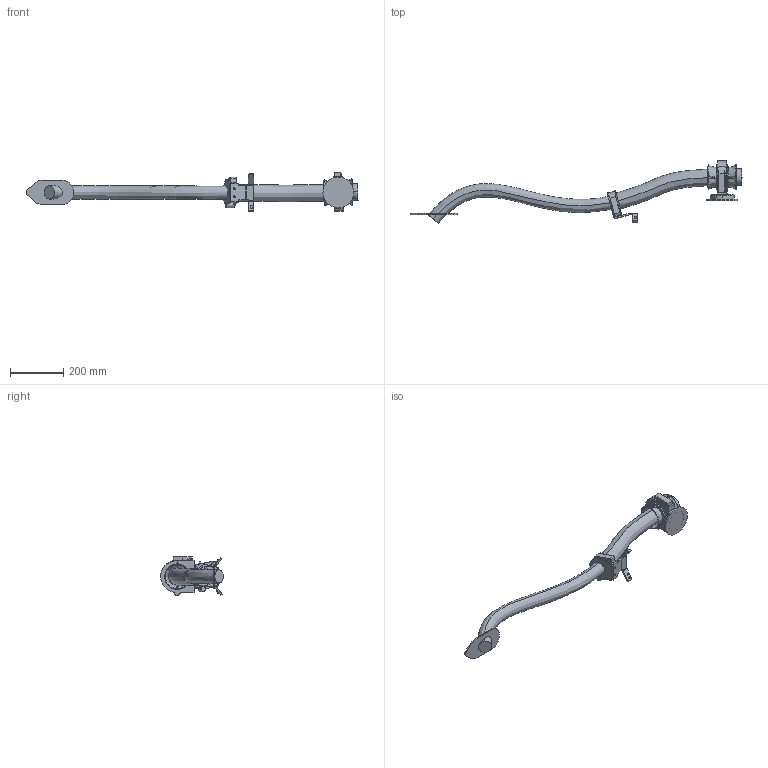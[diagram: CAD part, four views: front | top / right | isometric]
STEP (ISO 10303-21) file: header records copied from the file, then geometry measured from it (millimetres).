
FILE_DESCRIPTION (( 'STEP AP214' ), '1' );
FILE_NAME ('IRB5710-LID_70kg-270_OC_rev01_LINK04_CABLE.step', '2025-07-07T14:19:52', ( '' ), ( '' ), 'SwSTEP 2.0', 'SolidWorks 2024', '' );
FILE_SCHEMA (( 'AUTOMOTIVE_DESIGN' ));
Length unit declared in the file: millimetre
Products named in the file (1): IRB5710-LID_70kg-270_OC_rev01_LINK04_CABLE
Bounding box: 1243.15 x 234.79 x 144.31 mm (x, y, z)
Volume: 3757317.8 mm3; surface area: 406163.3 mm2
Topology: 1 solids, 7 shells, 730 faces, 1806 edges, 1080 vertices
Faces by surface type: cylinder 229, plane 211, torus 124, bspline 64, sphere 56, cone 46
Entity records: 35257 total; most frequent: CARTESIAN_POINT 10114, DIRECTION 3780, ORIENTED_EDGE 3540, EDGE_CURVE 1770, AXIS2_PLACEMENT_3D 1536, VERTEX_POINT 1068, CIRCLE 869, EDGE_LOOP 764
